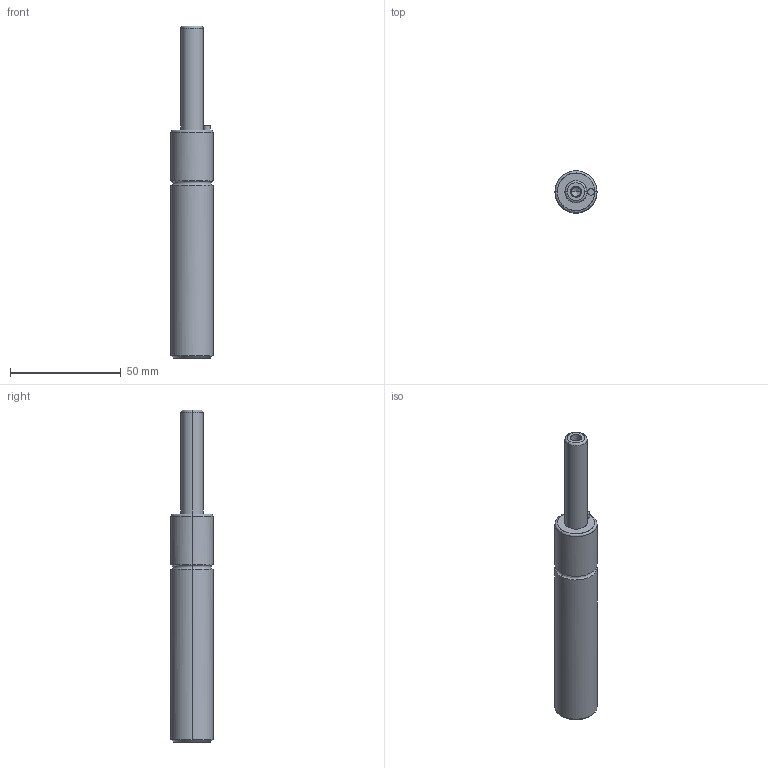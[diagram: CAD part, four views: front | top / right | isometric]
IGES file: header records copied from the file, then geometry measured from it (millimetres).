
Global section: file name: E:\UnigraphicsGraphicData\MISUMI_PRESS-PARTS\IGES\3d_gsm19-45_03896_r00.igs; native system: NX V5.0; preprocessor: UGS NX IGES V5.0; author: MISUMI; date: 20110105.160805; units: millimetre
Bounding box: 19 x 18.99 x 150 mm (x, y, z)
Surface area: 8510 mm2 (no closed solid volume)
Topology: 0 solids, 0 shells, 34 faces, 208 edges, 204 vertices
Faces by surface type: bspline 34
